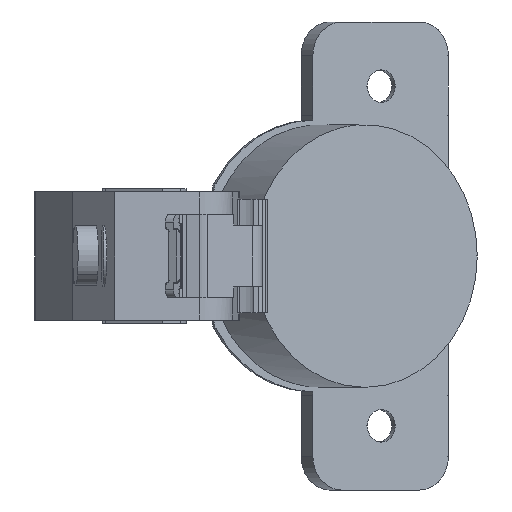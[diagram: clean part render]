
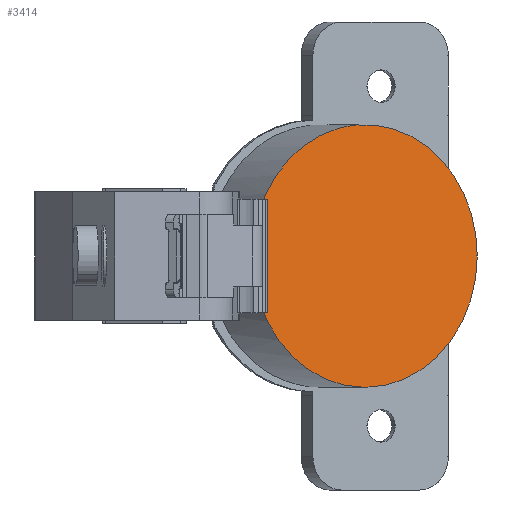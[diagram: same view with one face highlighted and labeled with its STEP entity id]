
A CAD part, left-side view. The second image highlights one B-rep face of the part: STEP entity #3414.
In plain terms, the highlighted planar face has unit normal (-0.855, -0.518, 0).
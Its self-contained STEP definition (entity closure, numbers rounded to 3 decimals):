
#202 = CARTESIAN_POINT ( 'NONE',  ( 58.774, 6.36, 17.299 ) ) ;
#216 = FACE_OUTER_BOUND ( 'NONE', #7536, .T. ) ;
#374 = CARTESIAN_POINT ( 'NONE',  ( 57.792, 7.981, 0. ) ) ;
#624 = ORIENTED_EDGE ( 'NONE', *, *, #1588, .T. ) ;
#634 = CIRCLE ( 'NONE', #2960, 17.4 ) ;
#687 = CARTESIAN_POINT ( 'NONE',  ( 57.512, 8.444, 17.501 ) ) ;
#1588 = EDGE_CURVE ( 'NONE', #4334, #6036, #7353, .T. ) ;
#1736 = CARTESIAN_POINT ( 'NONE',  ( 66.81, -6.9, 0. ) ) ;
#2033 = B_SPLINE_CURVE_WITH_KNOTS ( 'NONE', 3,
 ( #8106, #4044, #7332, #7050, #4875, #202, #3371, #6549, #687, #3853, #6497 ),
 .UNSPECIFIED., .F., .F.,
 ( 4, 1, 1, 1, 2, 2, 4 ),
 ( 0., 0.25, 0.375, 0.437, 0.469, 0.5, 1. ),
 .UNSPECIFIED. ) ;
#2034 = DIRECTION ( 'NONE',  ( -0.855, -0.518, 0. ) ) ;
#2090 = EDGE_CURVE ( 'NONE', #6036, #5420, #2033, .T. ) ;
#2156 = CARTESIAN_POINT ( 'NONE',  ( 57.792, 7.981, 0. ) ) ;
#2703 = DIRECTION ( 'NONE',  ( -0.518, 0.855, 0. ) ) ;
#2960 = AXIS2_PLACEMENT_3D ( 'NONE', #6111, #5285, #10038 ) ;
#3371 = CARTESIAN_POINT ( 'NONE',  ( 58.65, 6.565, 17.323 ) ) ;
#3414 = ADVANCED_FACE ( 'NONE', ( #216 ), #3474, .T. ) ;
#3474 = PLANE ( 'NONE',  #7784 ) ;
#3530 = DIRECTION ( 'NONE',  ( -0.855, -0.518, 0. ) ) ;
#3575 = CARTESIAN_POINT ( 'NONE',  ( 57.792, 7.981, 0. ) ) ;
#3852 = AXIS2_PLACEMENT_3D ( 'NONE', #2156, #7621, #4589 ) ;
#3853 = CARTESIAN_POINT ( 'NONE',  ( 56.522, 10.078, 17.339 ) ) ;
#4044 = CARTESIAN_POINT ( 'NONE',  ( 60.947, 2.775, 16.329 ) ) ;
#4313 = ORIENTED_EDGE ( 'NONE', *, *, #4891, .T. ) ;
#4334 = VERTEX_POINT ( 'NONE', #1736 ) ;
#4589 = DIRECTION ( 'NONE',  ( 0.518, -0.855, 0. ) ) ;
#4875 = CARTESIAN_POINT ( 'NONE',  ( 58.96, 6.054, 17.259 ) ) ;
#4891 = EDGE_CURVE ( 'NONE', #5420, #6906, #9815, .T. ) ;
#5285 = DIRECTION ( 'NONE',  ( -0.855, -0.518, 0. ) ) ;
#5420 = VERTEX_POINT ( 'NONE', #9221 ) ;
#5768 = EDGE_CURVE ( 'NONE', #6906, #4334, #634, .T. ) ;
#6036 = VERTEX_POINT ( 'NONE', #7064 ) ;
#6111 = CARTESIAN_POINT ( 'NONE',  ( 57.792, 7.981, 0. ) ) ;
#6497 = CARTESIAN_POINT ( 'NONE',  ( 55.556, 11.671, 16.858 ) ) ;
#6549 = CARTESIAN_POINT ( 'NONE',  ( 58.589, 6.666, 17.334 ) ) ;
#6737 = CARTESIAN_POINT ( 'NONE',  ( 48.775, 22.862, 0. ) ) ;
#6805 = ORIENTED_EDGE ( 'NONE', *, *, #5768, .T. ) ;
#6906 = VERTEX_POINT ( 'NONE', #6737 ) ;
#7050 = CARTESIAN_POINT ( 'NONE',  ( 59.39, 5.344, 17.14 ) ) ;
#7064 = CARTESIAN_POINT ( 'NONE',  ( 61.411, 2.01, 15.938 ) ) ;
#7332 = CARTESIAN_POINT ( 'NONE',  ( 60.239, 3.943, 16.799 ) ) ;
#7353 = CIRCLE ( 'NONE', #3852, 17.4 ) ;
#7536 = EDGE_LOOP ( 'NONE', ( #4313, #6805, #624, #9076 ) ) ;
#7621 = DIRECTION ( 'NONE',  ( -0.855, -0.518, 0. ) ) ;
#7784 = AXIS2_PLACEMENT_3D ( 'NONE', #374, #3530, #2703 ) ;
#8106 = CARTESIAN_POINT ( 'NONE',  ( 61.411, 2.01, 15.938 ) ) ;
#8308 = AXIS2_PLACEMENT_3D ( 'NONE', #3575, #2034, #9857 ) ;
#9076 = ORIENTED_EDGE ( 'NONE', *, *, #2090, .T. ) ;
#9221 = CARTESIAN_POINT ( 'NONE',  ( 55.556, 11.671, 16.858 ) ) ;
#9815 = CIRCLE ( 'NONE', #8308, 17.4 ) ;
#9857 = DIRECTION ( 'NONE',  ( 0.518, -0.855, 0. ) ) ;
#10038 = DIRECTION ( 'NONE',  ( 0.518, -0.855, 0. ) ) ;
